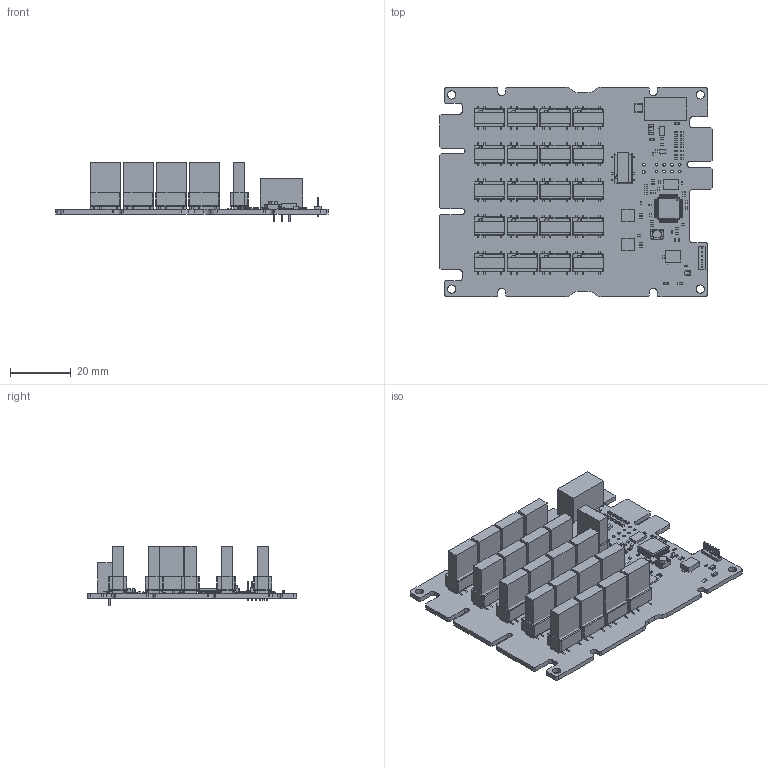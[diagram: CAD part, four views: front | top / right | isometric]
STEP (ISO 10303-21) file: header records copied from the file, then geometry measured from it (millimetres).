
FILE_DESCRIPTION(('Open CASCADE Model'),'2;1');
FILE_NAME('Open CASCADE Shape Model','2026-08-19T14:30:05',('Author'),( 'Open CASCADE'),'Open CASCADE STEP processor 7.5','Open CASCADE 7.5' ,'Unknown');
FILE_SCHEMA(('AUTOMOTIVE_DESIGN { 1 0 10303 214 1 1 1 1 }'));
Length unit declared in the file: millimetre
Products named in the file (247): Open CASCADE STEP translator 7.5 2901; Open CASCADE STEP translator 7.5 2902; Open CASCADE STEP translator 7.5 2903; Open CASCADE STEP translator 7.5 2904; Open CASCADE STEP translator 7.5 2905; Open CASCADE STEP translator 7.5 2906; Open CASCADE STEP translator 7.5 2907; Open CASCADE STEP translator 7.5 2908; Open CASCADE STEP translator 7.5 2909; Open CASCADE STEP translator 7.5 2910; Open CASCADE STEP translator 7.5 2911; Open CASCADE STEP translator 7.5 2912; Open CASCADE STEP translator 7.5 2913; Open CASCADE STEP translator 7.5 2914; Open CASCADE STEP translator 7.5 2915; Open CASCADE STEP translator 7.5 2916; Open CASCADE STEP translator 7.5 2917; Open CASCADE STEP translator 7.5 2918; Open CASCADE STEP translator 7.5 2919; Open CASCADE STEP translator 7.5 2920; Open CASCADE STEP translator 7.5 2921; Open CASCADE STEP translator 7.5 2922; Open CASCADE STEP translator 7.5 2923; Open CASCADE STEP translator 7.5 2924; Open CASCADE STEP translator 7.5 2925; Open CASCADE STEP translator 7.5 2926; Open CASCADE STEP translator 7.5 2927; Open CASCADE STEP translator 7.5 2928; Open CASCADE STEP translator 7.5 2929; Open CASCADE STEP translator 7.5 2930; Open CASCADE STEP translator 7.5 2931; Open CASCADE STEP translator 7.5 2932; Open CASCADE STEP translator 7.5 2933; Open CASCADE STEP translator 7.5 2934; Open CASCADE STEP translator 7.5 2935; Open CASCADE STEP translator 7.5 2936; Open CASCADE STEP translator 7.5 2937; Open CASCADE STEP translator 7.5 2938; Open CASCADE STEP translator 7.5 2939; Open CASCADE STEP translator 7.5 2940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
Bounding box: 90 x 69 x 19.6 mm (x, y, z)
Volume: 28289.9 mm3; surface area: 30911.3 mm2
Topology: 314 solids, 314 shells, 4964 faces, 12035 edges, 7901 vertices
Faces by surface type: plane 4152, cylinder 709, sphere 87, torus 8, bspline 4, cone 4
Full cylindrical faces by diameter (mm): 0.08 x1, 0.289 x1, 0.3 x6, 0.5 x3, 0.6 x6, 0.75 x126, 0.9 x8, 0.94 x3, 1 x2, 1.4 x1, 1.6 x2, 2.7 x4
Entity records: 152894 total; most frequent: CARTESIAN_POINT 24984, ORIENTED_EDGE 24070, DIRECTION 23368, EDGE_CURVE 12035, LINE 10594, VECTOR 10594, VERTEX_POINT 7901, AXIS2_PLACEMENT_3D 6387
